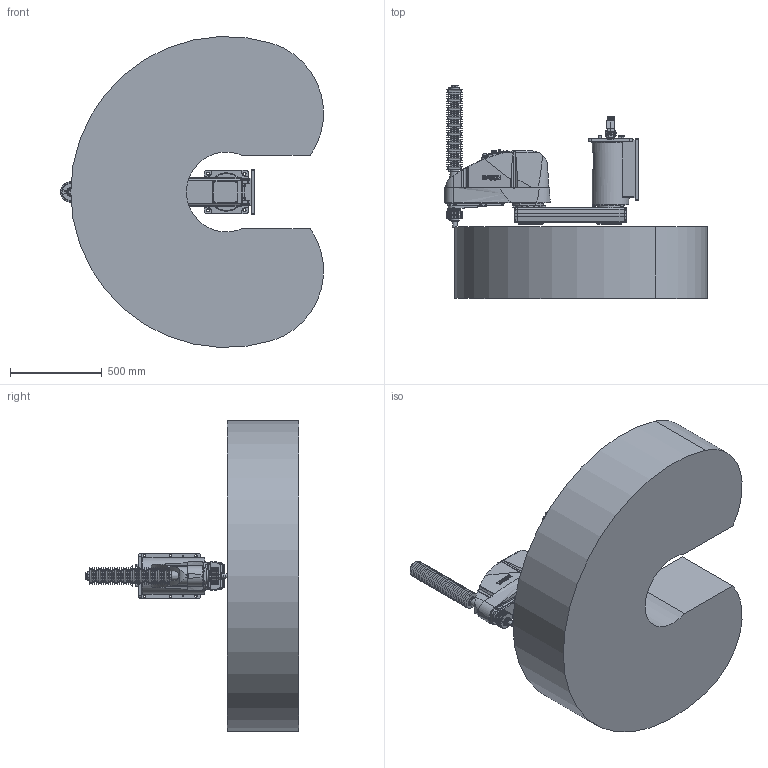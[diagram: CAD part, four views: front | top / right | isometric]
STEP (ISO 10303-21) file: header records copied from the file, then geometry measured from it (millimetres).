
FILE_DESCRIPTION( ( 'STEP AP214' ), '1' );
FILE_NAME( 'C:/Users/9607552/Desktop/GX20-B854CW_straight.stp', '2023-08-01T09:38:37', ( '' ), ( '' ), ' ', 'PARTsolutions', ' ' );
FILE_SCHEMA( ( 'AUTOMOTIVE_DESIGN { 1 0 10303 214 1 1 1 1 }' ) );
Length unit declared in the file: millimetre
Products named in the file (7): GX20-B854CWS-W; _Base cw; _Straight-B; _J1 Arm GX10-450 r/w; _J2 Arm GX10-c; _J3 Arm GX10-c (4); _GX10_20B-29_4
Assembly tree (6 placements, depth 2):
  GX20-B854CWS-W
    _Base cw
    _Straight-B
    _J1 Arm GX10-450 r/w
    _J2 Arm GX10-c
    _J3 Arm GX10-c (4)
    _GX10_20B-29_4
Bounding box: 1435.96 x 1164 x 1698.44 mm (x, y, z)
Volume: 689088355.3 mm3; surface area: 7969911.2 mm2
Topology: 6 solids, 6 shells, 2612 faces, 6415 edges, 4146 vertices
Faces by surface type: plane 1310, cylinder 762, cone 432, torus 70, bspline 37, sphere 1
Full cylindrical faces by diameter (mm): 1.18 x55, 2.5 x2, 3 x32, 3.242 x10, 3.3 x9, 4 x2, 4.2 x2, 4.8 x4, 5.1 x4, 5.34 x4, 5.5 x12, 6 x4, 6.2 x2, 6.647 x2, 6.8 x2, 7 x19, 7.5 x1, 7.59 x4, 8 x4, 8.5 x2, 9 x4, 10 x32, 10.5 x3, 11 x14, 12 x7, 12.25 x1, 13 x8, 14 x20, 14.25 x1, 16 x7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
Entity records: 97956 total; most frequent: CARTESIAN_POINT 18140, DIRECTION 12242, ORIENTED_EDGE 11152, EDGE_CURVE 5576, AXIS2_PLACEMENT_3D 4714, VERTEX_POINT 4038, EDGE_LOOP 3719, FACE_OUTER_BOUND 2976
